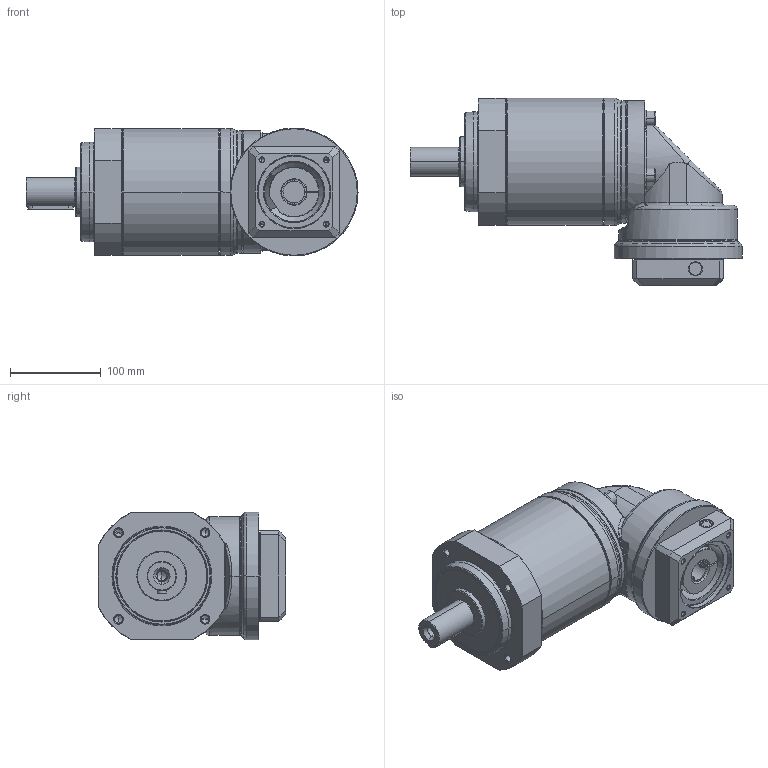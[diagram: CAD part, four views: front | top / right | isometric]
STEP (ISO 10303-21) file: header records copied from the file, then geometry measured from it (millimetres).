
FILE_DESCRIPTION((''),'2;1');
FILE_NAME('PS2R-E_2ST_24-P0411500101_ASM','2016-06-01T',('d01943'),(''),'PRO/ENGINEER BY PARAMETRIC TECHNOLOGY CORPORATION, 2008410','PRO/ENGINEER BY PARAMETRIC TECHNOLOGY CORPORATION, 2008410','');
FILE_SCHEMA(('CONFIG_CONTROL_DESIGN'));
Length unit declared in the file: millimetre
Products named in the file (12): P1328510001; P0251500001; P0350501401; P1349500001; P1017500001; P0713501001; P0503500008; P1350500101; P0411500101; P1702500001; 2111BA10040; PS2R-E_2ST_24-P0411500101_ASM
Assembly tree (14 placements, depth 2):
  PS2R-E_2ST_24-P0411500101_ASM
    P1328510001
    P0251500001
    P0350501401
    P1349500001
    P1017500001
    P0713501001
    P0503500008
    P1350500101
    P0411500101
    P1702500001
    2111BA10040  x4
Bounding box: 366 x 206.5 x 141 mm (x, y, z)
Volume: 2639623.6 mm3; surface area: 464204.2 mm2
Topology: 14 solids, 14 shells, 728 faces, 1604 edges, 923 vertices
Faces by surface type: cylinder 216, cone 212, plane 166, torus 100, bspline 34
Entity records: 23146 total; most frequent: CARTESIAN_POINT 9130, DIRECTION 3090, ORIENTED_EDGE 2720, EDGE_CURVE 1360, AXIS2_PLACEMENT_3D 1299, VERTEX_POINT 803, EDGE_LOOP 705, CIRCLE 678
